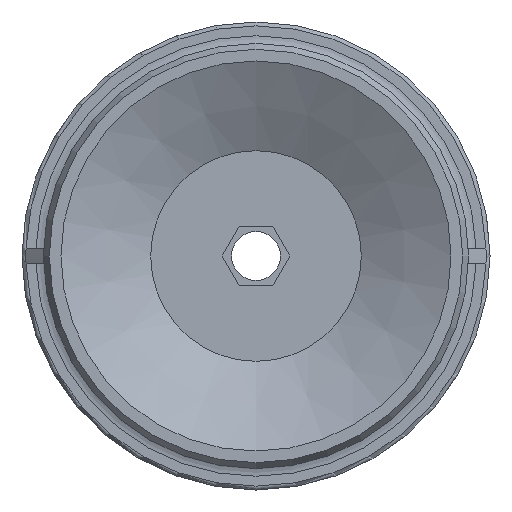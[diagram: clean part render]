
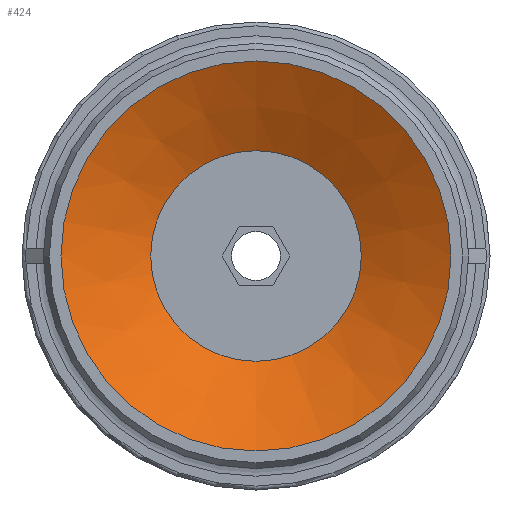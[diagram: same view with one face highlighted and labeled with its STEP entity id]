
A CAD part, front view. The second image highlights one B-rep face of the part: STEP entity #424.
In plain terms, the highlighted conical face has half-angle 61.631 degrees and reference radius 5.4 mm.
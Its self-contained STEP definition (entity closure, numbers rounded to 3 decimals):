
#424=ADVANCED_FACE('',(#653,#654),#655,.F.);
#653=FACE_BOUND('',#911,.T.);
#654=FACE_OUTER_BOUND('',#912,.T.);
#655=CONICAL_SURFACE('',#913,5.4,1.076);
#911=EDGE_LOOP('',(#1516));
#912=EDGE_LOOP('',(#1517));
#913=AXIS2_PLACEMENT_3D('',#1518,#1519,#1520);
#1516=ORIENTED_EDGE('',*,*,#1790,.F.);
#1517=ORIENTED_EDGE('',*,*,#1789,.T.);
#1518=CARTESIAN_POINT('',(0.0,2.484,0.0));
#1519=DIRECTION('',(-0.0,-1.0,0.));
#1520=DIRECTION('',(0.0,0.,-1.0));
#1789=EDGE_CURVE('',#2086,#2086,#2087,.T.);
#1790=EDGE_CURVE('',#2088,#2088,#2089,.T.);
#2086=VERTEX_POINT('',#2778);
#2087=CIRCLE('',#2779,10.0);
#2088=VERTEX_POINT('',#2780);
#2089=CIRCLE('',#2781,5.4);
#2778=CARTESIAN_POINT('',(0.0,0.,-10.0));
#2779=AXIS2_PLACEMENT_3D('',#3069,#3070,#3071);
#2780=CARTESIAN_POINT('',(0.0,2.484,-5.4));
#2781=AXIS2_PLACEMENT_3D('',#3072,#3073,#3074);
#3069=CARTESIAN_POINT('',(0.0,0.0,0.0));
#3070=DIRECTION('',(0.0,-1.0,0.));
#3071=DIRECTION('',(0.0,0.,-1.0));
#3072=CARTESIAN_POINT('',(0.0,2.484,0.0));
#3073=DIRECTION('',(0.0,-1.0,0.));
#3074=DIRECTION('',(0.0,0.,-1.0));
